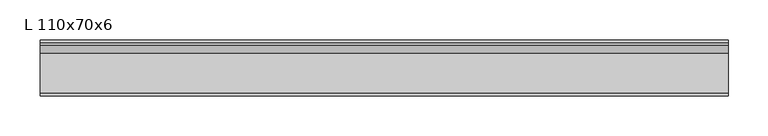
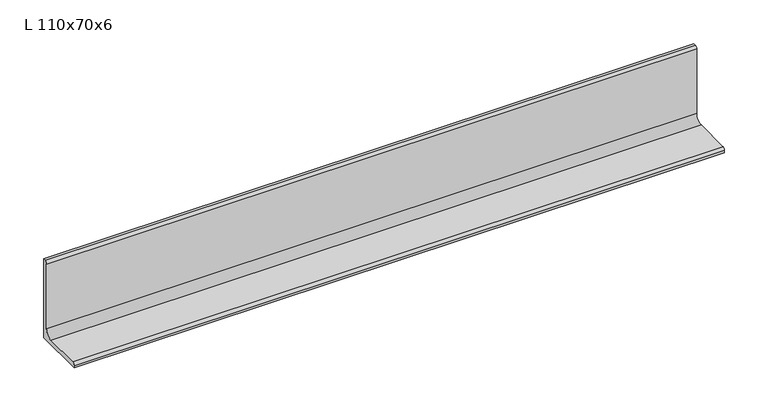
"""IFC4 building model written with IfcOpenShell, lengths in millimetres: beam geometry, Уголок (ГОСТ 8510-86) Балки : L 110x70x6."""

from ifc_helpers import new_model, si_unit, point, frame, frame_2d, origin, place, context, project, spatial, polyline, circle_curve, trimmed, segment, composite_curve, outline, extrude, source, transform, mapped, element, save


def l_110x70x6_d274b7ba(model_context):
    return source(origin(), model_context, "Body", "SweptSolid", [
        extrude(outline(composite_curve([segment(polyline([(15.8, -35.5), (-54.2, -35.5), (-54.2, -32.3)]), True, "CONTINUOUS"), segment(trimmed(circle_curve(frame_2d((-50.9, -32.3)), 3.3), [point((-54.2, -32.3))], [point((-50.9, -29.0))], False, "CARTESIAN"), True, "CONTINUOUS"), segment(polyline([(-50.9, -29.0), (-0.7, -29.0)]), True, "CONTINUOUS"), segment(trimmed(circle_curve(frame_2d((-0.7, -19.0)), 10.0), [point((-0.7, -29.0))], [point((9.3, -19.0))], True, "CARTESIAN"), True, "CONTINUOUS"), segment(polyline([(9.3, -19.0), (9.3, 71.2)]), True, "CONTINUOUS"), segment(trimmed(circle_curve(frame_2d((12.6, 71.2)), 3.3), [point((9.3, 71.2))], [point((12.6, 74.5))], False, "CARTESIAN"), True, "CONTINUOUS"), segment(polyline([(12.6, 74.5), (15.8, 74.5), (15.8, -35.5)]), True, "CONTINUOUS")], self_intersect=False)), frame((-480.0, 0.0, 0.0), z_axis=(1.0, 0.0, 0.0), x_axis=(0.0, 1.0, 0.0)), (0.0, 0.0, 1.0), 860.0),
    ])


if __name__ == "__main__":
    model = new_model("IFC4")
    model_context = context("Model", 3, world=origin())
    ifc_project = project(units=[si_unit("LENGTHUNIT", "METRE", prefix="MILLI")], contexts=[model_context])
    site = spatial("IfcSite", under=ifc_project)
    building = spatial("IfcBuilding", under=site)
    placement = place(None, origin())
    l_110x70x6_shape = l_110x70x6_d274b7ba(model_context)
    element("IfcBeam", 1, ObjectType="Уголок (ГОСТ 8510-86) Балки : L 110x70x6", at=placement, inside=building, context=model_context, shape_type="MappedRepresentation", body=[
        mapped(l_110x70x6_shape, transform((0.0, 0.0, 0.0), x_axis=(1.0, 0.0, 0.0), y_axis=(0.0, 1.0, 0.0), z_axis=(0.0, 0.0, 1.0))),
    ])
    save(model, "model.ifc")
